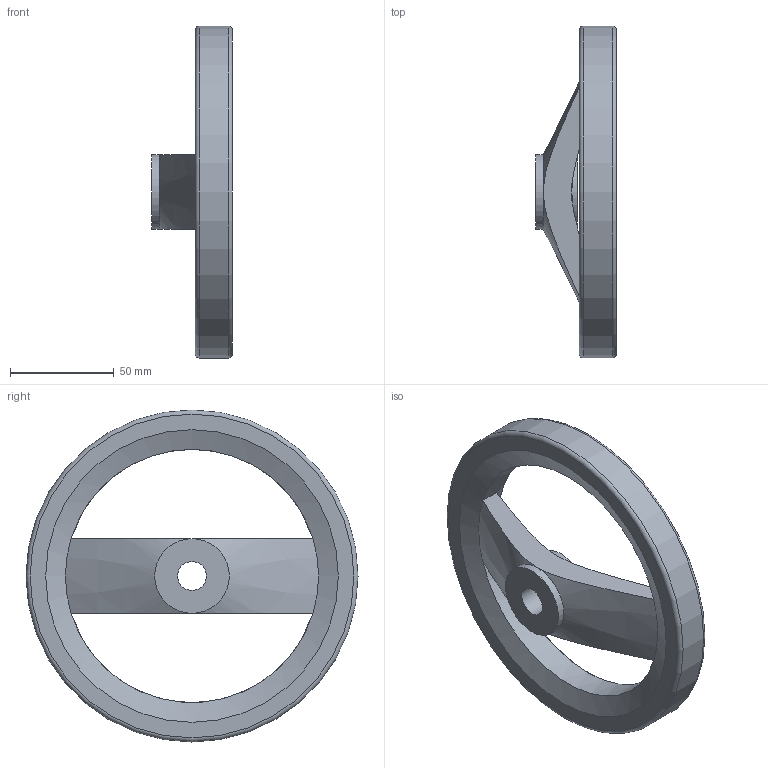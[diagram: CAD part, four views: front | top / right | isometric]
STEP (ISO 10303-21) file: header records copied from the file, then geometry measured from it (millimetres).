
FILE_DESCRIPTION( ( 'STEP AP203' ), '1' );
FILE_NAME( 'C:/Temp/Ganter_Step_05_03_2020/data/1_3/gn_324/gn_324_b/gn_324_b_a/Handwheel, matt black GN 324-160-B14-A.stp', '2020-03-05T10:32:54', ( 'License CC BY-ND 4.0' ), ( 'CADENAS' ), ' ', 'PARTsolutions', ' ' );
FILE_SCHEMA( ( 'CONFIG_CONTROL_DESIGN' ) );
Length unit declared in the file: millimetre
Products named in the file (1): _Handwheel, matt black GN 324-160-B14-A
Bounding box: 39 x 160 x 160 mm (x, y, z)
Volume: 198868.5 mm3; surface area: 43188.8 mm2
Topology: 1 solids, 1 shells, 19 faces, 43 edges, 24 vertices
Faces by surface type: plane 6, cone 6, cylinder 5, torus 2
Full cylindrical faces by diameter (mm): 14 x1, 36 x2, 122 x1, 160 x1
Entity records: 656 total; most frequent: CARTESIAN_POINT 220, DIRECTION 86, ORIENTED_EDGE 66, AXIS2_PLACEMENT_3D 41, EDGE_CURVE 33, EDGE_LOOP 32, FACE_OUTER_BOUND 26, VERTEX_POINT 23
